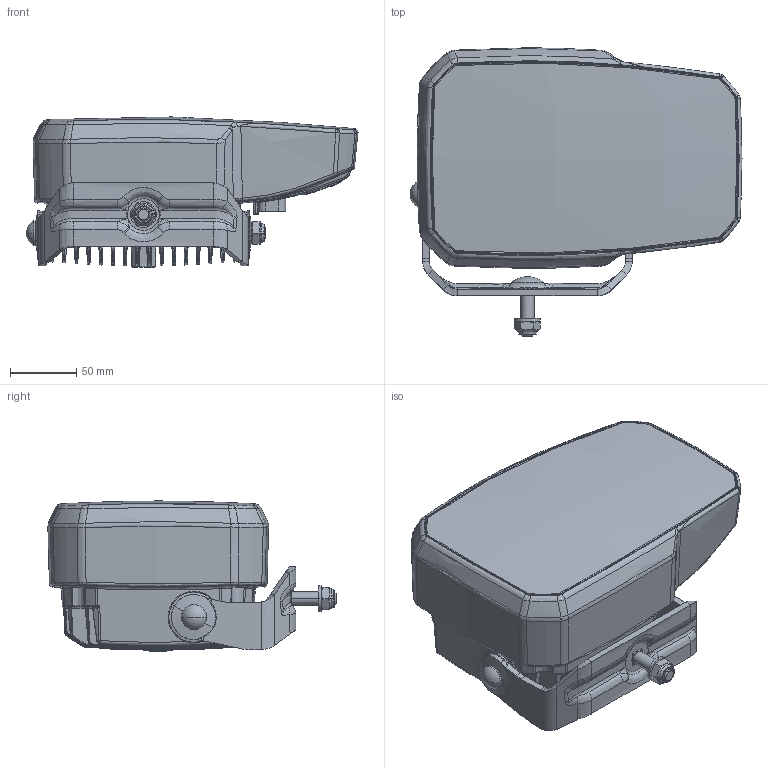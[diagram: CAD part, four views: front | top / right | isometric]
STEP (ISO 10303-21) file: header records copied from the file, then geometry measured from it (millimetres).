
FILE_DESCRIPTION(('CATIA V5 STEP Exchange','CAx-IF Rec.Pracs.--- Model Styling and Organization---1.5--- 2016-08-15','CAx-IF Rec.Pracs.---Supplemental Geometry---1.0---2011-11-01','CAx-IF Rec.Pracs.--- Composite Materials ---1.1---2010-07-15'),'2;1');
FILE_NAME('E:\tmp\ddx\2010591\3D_data_LED_combination_headlamp_C140_LED_horizontal_1EE 996 374-01.stp','2022-01-14T14:38:11+00:00',('none'),('none'),'CATIA Version 5-6 Release 2020 SP3 HF9','CATIA V5 STEP AP214 Edition 3 v2','none');
FILE_SCHEMA(('AUTOMOTIVE_DESIGN { 1 0 10303 214 3 1 1 1 }'));
Length unit declared in the file: millimetre
Products named in the file (1): 10001297499_D10_001
Bounding box: 250.97 x 217.94 x 113.48 mm (x, y, z)
Volume: 2652172 mm3; surface area: 343727.6 mm2
Topology: 2 solids, 72 shells, 6138 faces, 15196 edges, 9071 vertices
Faces by surface type: bspline 3081, plane 1024, extrusion 710, cylinder 540, cone 299, sphere 254, torus 227, revolution 3
Entity records: 349419 total; most frequent: CARTESIAN_POINT 240092, ORIENTED_EDGE 29854, EDGE_CURVE 14927, B_SPLINE_CURVE_WITH_KNOTS 11474, VERTEX_POINT 9071, DIRECTION 8612, EDGE_LOOP 6326, ADVANCED_FACE 6138
